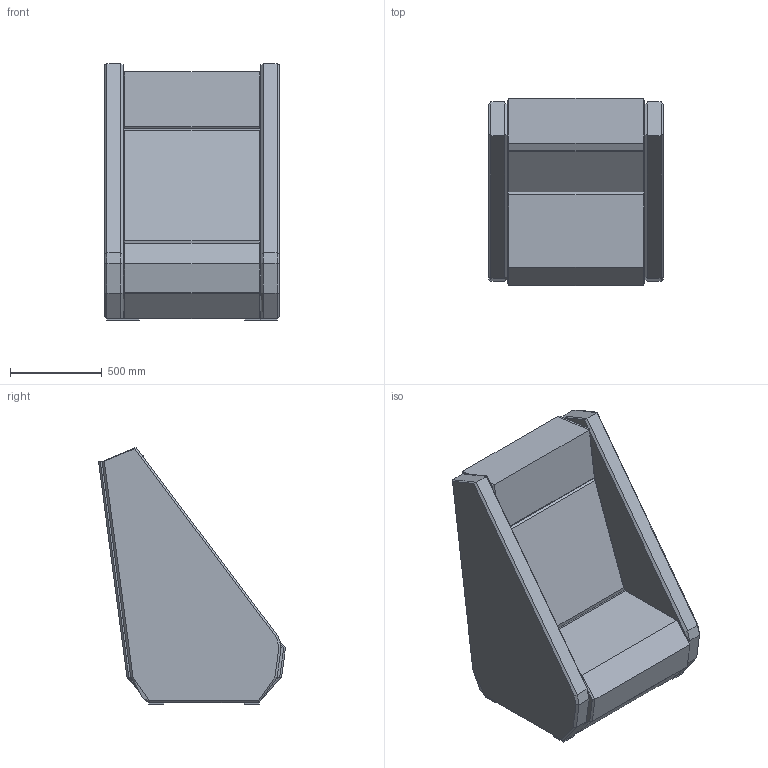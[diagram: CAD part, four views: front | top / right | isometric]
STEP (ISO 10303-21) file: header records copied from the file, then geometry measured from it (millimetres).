
FILE_DESCRIPTION(/* description */ (''),/* implementation_level */ '2;1');
FILE_NAME(/* name */ 'KM-BR-02',/* time_stamp */ '2015-10-05T16:38:31+02:00',/* author */ (''),/* organization */ (''),/* preprocessor_version */ 'ST-DEVELOPER v15',/* originating_system */ '',/* authorisation */ '');
FILE_SCHEMA (('CONFIG_CONTROL_DESIGN'));
Length unit declared in the file: millimetre
Products named in the file (1): Document
Bounding box: 950 x 1017.73 x 1397.94 mm (x, y, z)
Volume: 479812614.5 mm3; surface area: 8543995 mm2
Topology: 5 solids, 9 shells, 153 faces, 386 edges, 232 vertices
Faces by surface type: bspline 131, plane 22
Entity records: 5503 total; most frequent: CARTESIAN_POINT 3506, ORIENTED_EDGE 702, EDGE_CURVE 367, VERTEX_POINT 228, ADVANCED_FACE 153, FACE_OUTER_BOUND 153, EDGE_LOOP 153, B_SPLINE_CURVE_WITH_KNOTS 42
